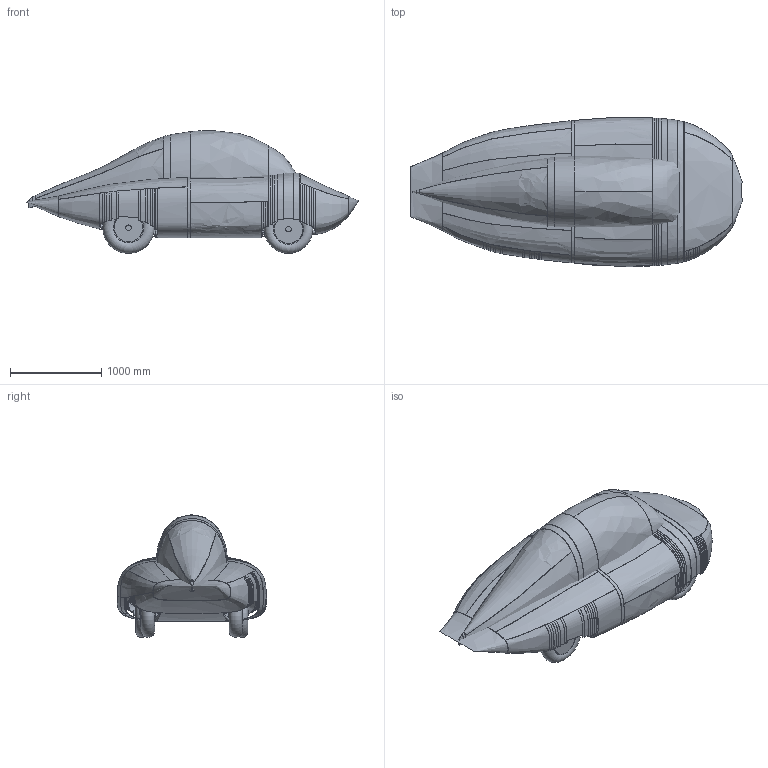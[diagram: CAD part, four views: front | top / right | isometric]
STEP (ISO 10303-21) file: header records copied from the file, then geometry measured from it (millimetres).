
FILE_DESCRIPTION(('Open CASCADE Model'),'2;1');
FILE_NAME('Open CASCADE Shape Model','2026-11-06T17:36:04',('Author'),( 'Open CASCADE'),'Open CASCADE STEP processor 7.9','Open CASCADE 7.9' ,'Unknown');
FILE_SCHEMA(('AUTOMOTIVE_DESIGN { 1 0 10303 214 1 1 1 1 }'));
Length unit declared in the file: millimetre
Products named in the file (193): Aeromovil_1; Carroceria; CarrocerÃ­a 1; CarrocerÃ­a 2; Tapa del maletero delantero Â· CarrocerÃ­a 1; CarrocerÃ­a 3; CarrocerÃ­a 4; CarrocerÃ­a 5; CarrocerÃ­a 6; CarrocerÃ­a 7; CarrocerÃ­a 8; CarrocerÃ­a 9; CarrocerÃ­a 10; CarrocerÃ­a 11; CarrocerÃ­a 12; CarrocerÃ­a 13; CarrocerÃ­a 14; CarrocerÃ­a 15; CarrocerÃ­a 16; CarrocerÃ­a 17; CarrocerÃ­a 18; CarrocerÃ­a 19; CarrocerÃ­a 20; CarrocerÃ­a 21; CarrocerÃ­a 22; CarrocerÃ­a 23; CarrocerÃ­a 24; CarrocerÃ­a 25; CarrocerÃ­a 26; CarrocerÃ­a 27; CarrocerÃ­a 28; CarrocerÃ­a 29; CarrocerÃ­a 30; CarrocerÃ­a 31; CarrocerÃ­a 32; CarrocerÃ­a 33; CarrocerÃ­a 34; CarrocerÃ­a 35; CarrocerÃ­a 36; Puerta izquierda Â· CarrocerÃ­a 1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
Assembly tree (192 placements, depth 3):
  Aeromovil_1
    Carroceria
      CarrocerÃ­a 1
      CarrocerÃ­a 2
      Tapa del maletero delantero Â· CarrocerÃ­a 1
      CarrocerÃ­a 3
      CarrocerÃ­a 4
      CarrocerÃ­a 5
      CarrocerÃ­a 6
      CarrocerÃ­a 7
      CarrocerÃ­a 8
      CarrocerÃ­a 9
      CarrocerÃ­a 10
      CarrocerÃ­a 11
      CarrocerÃ­a 12
      CarrocerÃ­a 13
      CarrocerÃ­a 14
      CarrocerÃ­a 15
      CarrocerÃ­a 16
      CarrocerÃ­a 17
      CarrocerÃ­a 18
      CarrocerÃ­a 19
      CarrocerÃ­a 20
      CarrocerÃ­a 21
      CarrocerÃ­a 22
      CarrocerÃ­a 23
      CarrocerÃ­a 24
      CarrocerÃ­a 25
      CarrocerÃ­a 26
      CarrocerÃ­a 27
      CarrocerÃ­a 28
      CarrocerÃ­a 29
      CarrocerÃ­a 30
      CarrocerÃ­a 31
      CarrocerÃ­a 32
      CarrocerÃ­a 33
      CarrocerÃ­a 34
      CarrocerÃ­a 35
      CarrocerÃ­a 36
      Puerta izquierda Â· CarrocerÃ­a 1
      CarrocerÃ­a 37
      Puerta derecha Â· CarrocerÃ­a 1
      CarrocerÃ­a 38
      CarrocerÃ­a 39
      CarrocerÃ­a 40
      CarrocerÃ­a 41
      CarrocerÃ­a 42
      CarrocerÃ­a 43
      CarrocerÃ­a 44
      CarrocerÃ­a 45
      CarrocerÃ­a 46
      CarrocerÃ­a 47
      CarrocerÃ­a 48
      CarrocerÃ­a 49
      CarrocerÃ­a 50
      CarrocerÃ­a 51
      CarrocerÃ­a 52
      CarrocerÃ­a 53
      CarrocerÃ­a 54
      CarrocerÃ­a 55
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Bounding box: 3632.8 x 1633.61 x 1343.42 mm (x, y, z)
Volume: 399917219.2 mm3; surface area: 49705414.5 mm2
Topology: 430 solids, 430 shells, 1840 faces, 3046 edges, 2025 vertices
Faces by surface type: plane 681, cylinder 547, bspline 484, offset 98, sphere 25, torus 5
Full cylindrical faces by diameter (mm): 16 x2, 18 x2, 19 x6, 20 x8, 22 x14, 25 x17, 28 x22, 30 x6, 32 x22, 33 x3, 34 x4, 36 x192, 38 x3, 40 x193, 45 x4, 60 x4, 76 x2, 90 x1, 92 x2, 104 x2, 136 x2, 204 x2, 210 x1, 214 x2, 240 x2, 260 x1, 310 x4, 330 x8
Entity records: 267197 total; most frequent: CARTESIAN_POINT 195572, DIRECTION 11891, ORIENTED_EDGE 6042, PCURVE 6042, DEFINITIONAL_REPRESENTATION 6042, LINE 5562, VECTOR 5562, EDGE_CURVE 3021
